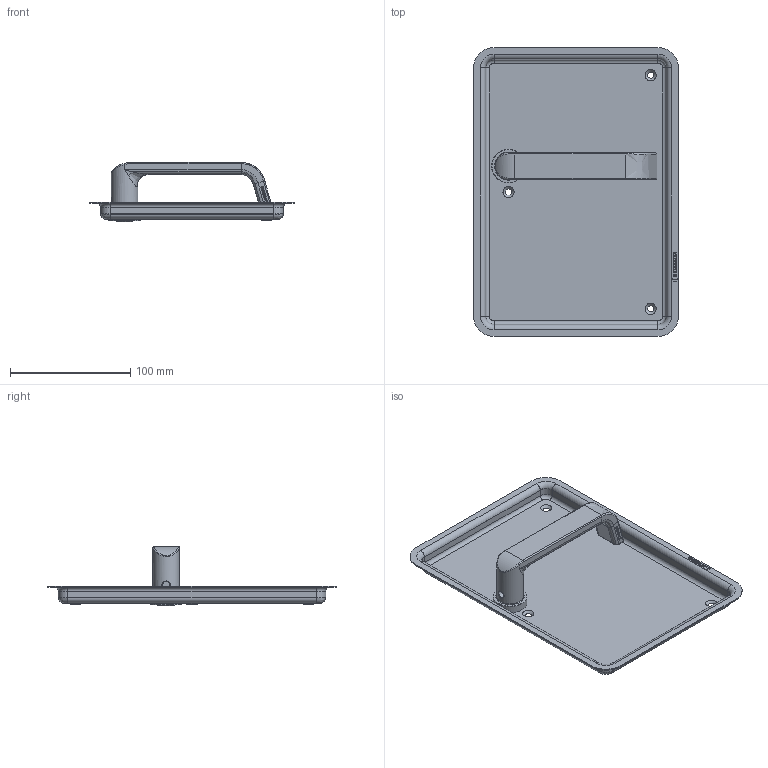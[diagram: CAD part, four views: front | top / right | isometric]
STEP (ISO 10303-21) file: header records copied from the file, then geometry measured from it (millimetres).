
FILE_DESCRIPTION(/* description */ (''),/* implementation_level */ '2;1');
FILE_NAME(/* name */ 'C:\ADSK_DMS_WS\Designs\Vorschläge\Loc Schalen\Muschel Serie 3\S3.13.D2\Heusser-Muschel S3.13.D2.0R.stp',/* time_stamp */ '2020-10-15T16:22:00+02:00',/* author */ ('gm'),/* organization */ (''),/* preprocessor_version */ 'ST-DEVELOPER v16.5',/* originating_system */ 'Autodesk Inventor 2017',/* authorisation */ '');
FILE_SCHEMA (('AUTOMOTIVE_DESIGN { 1 0 10303 214 3 1 1 }'));
Length unit declared in the file: millimetre
Products named in the file (1): S3.13.D1
Bounding box: 170 x 240 x 49 mm (x, y, z)
Volume: 90324.4 mm3; surface area: 110562.7 mm2
Topology: 1 solids, 2 shells, 607 faces, 1591 edges, 1029 vertices
Faces by surface type: plane 294, bspline 212, cylinder 68, torus 17, cone 16
Full cylindrical faces by diameter (mm): 1.7 x2, 6 x1, 14.2 x1, 16 x3, 18 x1, 19 x1, 19.1 x1, 22 x1, 23 x1, 23.2 x1, 24 x1, 25 x1, 26 x1, 28 x1
Entity records: 20802 total; most frequent: CARTESIAN_POINT 6397, ORIENTED_EDGE 3098, DIRECTION 2301, EDGE_CURVE 1549, VERTEX_POINT 1024, LINE 953, VECTOR 953, EDGE_LOOP 703
